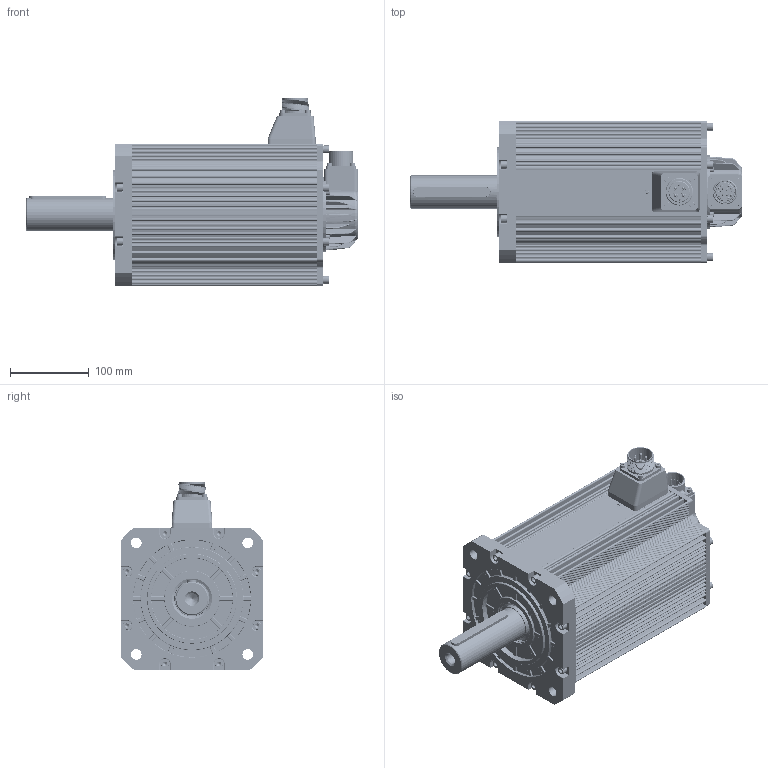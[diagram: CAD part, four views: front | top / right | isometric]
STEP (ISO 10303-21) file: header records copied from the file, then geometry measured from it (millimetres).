
FILE_DESCRIPTION((''),'2;1');
FILE_NAME('IMS20A-18M30C15C_ASM','2024-11-14T13:13:15',('0108628'),(''),'CREO PARAMETRIC BY PTC INC, 2019080','CREO PARAMETRIC BY PTC INC, 2019080','');
FILE_SCHEMA(('CONFIG_CONTROL_DESIGN'));
Products named in the file (36): 83040198_AF0; 6206_AF0; 80100282_AF0; JB6695-161_AF0; ZHUAN180-3KW_AF0_ASM; JIKE-75C-1_AF1; 5X8L; DZ-180-274L_AF0_ASM; GB93-6; GBT7R1-6X25; QIANDUANGAI_180_AF0; JB6695-161_AF1; YOUFENG; QDG_AF0_ASM; 87800001_AF0; M4X12-_AF00; M4X12-_AF10; M4X12-_AF20; M4X12-_AF30; JIAN; DIN912-M4X6-8_8_AF0; DINENISO7092-4_AF0; DIN912-M4X6-8_8_AF1; DINENISO7092-4_AF1; DIN912-M4X7-8_8; DINENISO7092-4; 86870277_AF0; YD32-180-TY; YD32-MD; YD32-MDS; DONGLI-HC-5015; YD32-4_ASM; XINHAO-HC-5015; DIN912-M4X40-8_8; DIN912-M4X12-8_8; IMS20A-18M30C15C_ASM
Assembly tree (72 placements, depth 3):
  IMS20A-18M30C15C_ASM
    ZHUAN180-3KW_AF0_ASM
      83040198_AF0
      6206_AF0
      80100282_AF0
      JB6695-161_AF0
    DZ-180-274L_AF0_ASM
      JIKE-75C-1_AF1
      5X8L
    GB93-6  x9
    GBT7R1-6X25  x8
    QDG_AF0_ASM
      QIANDUANGAI_180_AF0
      JB6695-161_AF1
      GB93-6  x8
      GBT7R1-6X25  x8
      YOUFENG
    87800001_AF0
    M4X12-_AF00
    M4X12-_AF10
    M4X12-_AF20
    M4X12-_AF30
    JIAN
    DIN912-M4X6-8_8_AF0
    DINENISO7092-4_AF0
    DIN912-M4X6-8_8_AF1
    DINENISO7092-4_AF1
    DIN912-M4X7-8_8
    DINENISO7092-4
    86870277_AF0
    YD32-4_ASM
      YD32-180-TY
      YD32-MD
      YD32-MDS
      DONGLI-HC-5015
    XINHAO-HC-5015
    DIN912-M4X40-8_8  x4
    DIN912-M4X12-8_8  x4
Bounding box: 421 x 180 x 237.4 mm (x, y, z)
Volume: 2135597.8 mm3; surface area: 849403.2 mm2
Topology: 67 solids, 129 shells, 6848 faces, 17705 edges, 11233 vertices
Faces by surface type: plane 2473, cylinder 2165, extrusion 732, cone 478, bspline 466, torus 390, sphere 144
Entity records: 259351 total; most frequent: CARTESIAN_POINT 110828, ORIENTED_EDGE 32110, DIRECTION 28699, EDGE_CURVE 16129, VERTEX_POINT 10372, AXIS2_PLACEMENT_3D 9978, VECTOR 8743, LINE 8011
